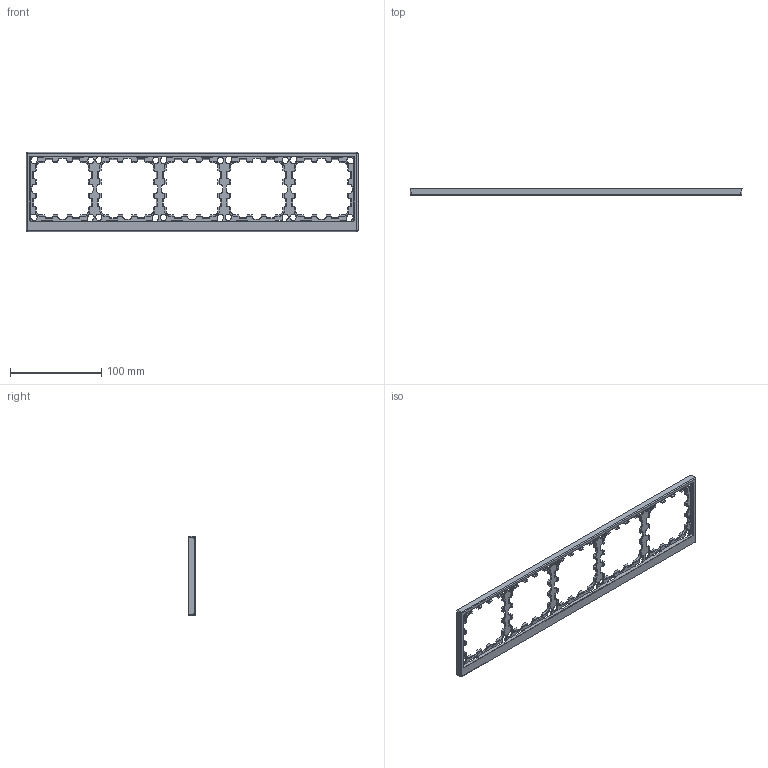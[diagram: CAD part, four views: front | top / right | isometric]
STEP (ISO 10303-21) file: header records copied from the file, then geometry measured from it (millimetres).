
FILE_DESCRIPTION (( 'STEP AP203' ), '1' );
FILE_NAME ('7000900.STEP', '2025-12-04T13:28:19', ( '' ), ( '' ), 'SwSTEP 2.0', 'SolidWorks 2022', '' );
FILE_SCHEMA (( 'CONFIG_CONTROL_DESIGN' ));
Length unit declared in the file: millimetre
Products named in the file (1): 7000900
Bounding box: 364 x 7.3 x 87 mm (x, y, z)
Volume: 31358.5 mm3; surface area: 47238.1 mm2
Topology: 1 solids, 1 shells, 906 faces, 2830 edges, 1877 vertices
Faces by surface type: plane 686, cylinder 182, cone 26, bspline 4, torus 4, sphere 4
Entity records: 31594 total; most frequent: CARTESIAN_POINT 6051, ORIENTED_EDGE 5652, DIRECTION 4961, EDGE_CURVE 2826, LINE 2387, VECTOR 2387, VERTEX_POINT 1877, AXIS2_PLACEMENT_3D 1287
